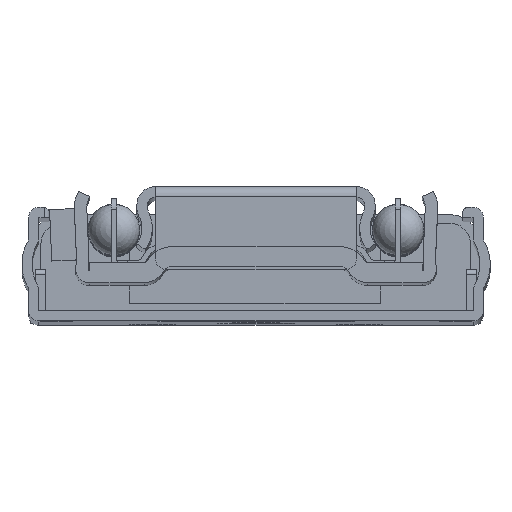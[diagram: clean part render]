
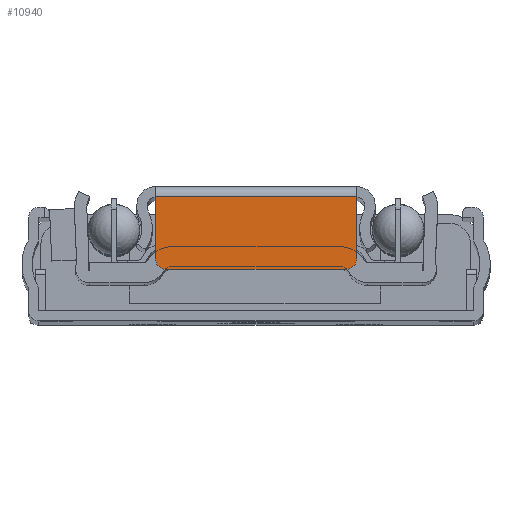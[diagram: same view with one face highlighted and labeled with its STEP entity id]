
A CAD part, top view. The second image highlights one B-rep face of the part: STEP entity #10940.
In plain terms, the highlighted planar face has unit normal (0, 0, 1).
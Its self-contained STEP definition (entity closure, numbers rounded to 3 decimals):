
#817=CIRCLE('',#11959,1.);
#818=CIRCLE('',#11960,1.);
#1361=FACE_OUTER_BOUND('',#1996,.T.);
#1996=EDGE_LOOP('',(#9752,#9753,#9754,#9755,#9756,#9757));
#3076=LINE('',#18286,#4186);
#3077=LINE('',#18289,#4187);
#3078=LINE('',#18293,#4188);
#3079=LINE('',#18296,#4189);
#4186=VECTOR('',#14927,10.);
#4187=VECTOR('',#14930,10.);
#4188=VECTOR('',#14933,10.);
#4189=VECTOR('',#14936,10.);
#5233=VERTEX_POINT('',#18279);
#5236=VERTEX_POINT('',#18284);
#5237=VERTEX_POINT('',#18288);
#5238=VERTEX_POINT('',#18290);
#5239=VERTEX_POINT('',#18292);
#5240=VERTEX_POINT('',#18294);
#6778=EDGE_CURVE('',#5236,#5233,#3076,.T.);
#6779=EDGE_CURVE('',#5236,#5237,#3077,.T.);
#6780=EDGE_CURVE('',#5238,#5237,#817,.T.);
#6781=EDGE_CURVE('',#5238,#5239,#3078,.T.);
#6782=EDGE_CURVE('',#5240,#5239,#818,.T.);
#6783=EDGE_CURVE('',#5233,#5240,#3079,.T.);
#9752=ORIENTED_EDGE('',*,*,#6778,.F.);
#9753=ORIENTED_EDGE('',*,*,#6779,.T.);
#9754=ORIENTED_EDGE('',*,*,#6780,.F.);
#9755=ORIENTED_EDGE('',*,*,#6781,.T.);
#9756=ORIENTED_EDGE('',*,*,#6782,.F.);
#9757=ORIENTED_EDGE('',*,*,#6783,.F.);
#10407=PLANE('',#11958);
#10940=ADVANCED_FACE('',(#1361),#10407,.T.);
#11958=AXIS2_PLACEMENT_3D('',#18287,#14928,#14929);
#11959=AXIS2_PLACEMENT_3D('',#18291,#14931,#14932);
#11960=AXIS2_PLACEMENT_3D('',#18295,#14934,#14935);
#14927=DIRECTION('',(-1.,0.,0.));
#14928=DIRECTION('center_axis',(0.,0.,1.));
#14929=DIRECTION('ref_axis',(1.,0.,0.));
#14930=DIRECTION('',(0.,1.,0.));
#14931=DIRECTION('center_axis',(0.,0.,-1.));
#14932=DIRECTION('ref_axis',(0.707,0.707,0.));
#14933=DIRECTION('',(-1.,0.,0.));
#14934=DIRECTION('center_axis',(0.,0.,-1.));
#14935=DIRECTION('ref_axis',(-0.707,0.707,0.));
#14936=DIRECTION('',(0.,1.,0.));
#18279=CARTESIAN_POINT('',(4.892,-4.95,249.));
#18284=CARTESIAN_POINT('',(24.354,-4.95,249.));
#18286=CARTESIAN_POINT('',(19.501,-4.95,249.));
#18287=CARTESIAN_POINT('Origin',(24.354,-5.95,249.));
#18288=CARTESIAN_POINT('',(24.354,1.05,249.));
#18289=CARTESIAN_POINT('',(24.354,-5.95,249.));
#18290=CARTESIAN_POINT('',(23.354,2.05,249.));
#18291=CARTESIAN_POINT('Origin',(23.354,1.05,249.));
#18292=CARTESIAN_POINT('',(5.892,2.05,249.));
#18293=CARTESIAN_POINT('',(24.354,2.05,249.));
#18294=CARTESIAN_POINT('',(4.892,1.05,249.));
#18295=CARTESIAN_POINT('Origin',(5.892,1.05,249.));
#18296=CARTESIAN_POINT('',(4.892,-5.95,249.));
